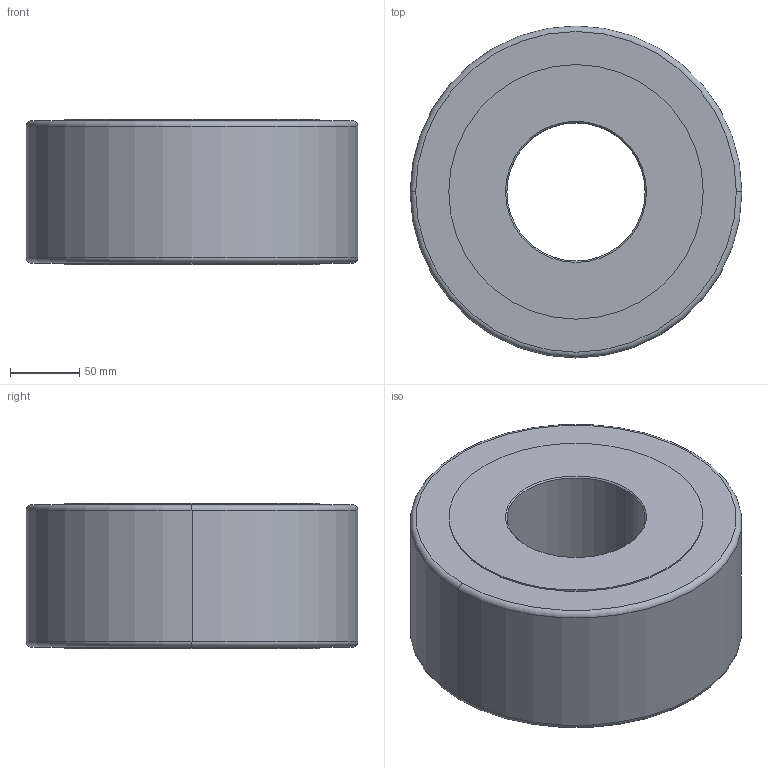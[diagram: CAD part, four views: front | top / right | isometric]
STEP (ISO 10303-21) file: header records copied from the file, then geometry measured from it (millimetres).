
FILE_DESCRIPTION (( 'STEP AP214' ), '1' );
FILE_NAME ('3DRSU100-240.STEP', '2013-12-19T09:43:59', ( 'usuario' ), ( 'Hewlett-Packard Company' ), 'SwSTEP 2.0', 'SolidWorks 2017', '' );
FILE_SCHEMA (( 'AUTOMOTIVE_DESIGN' ));
Length unit declared in the file: millimetre
Products named in the file (1): 3DRSU100-240
Bounding box: 240 x 240 x 105 mm (x, y, z)
Volume: 3882721.1 mm3; surface area: 183604.9 mm2
Topology: 1 solids, 1 shells, 20 faces, 40 edges, 24 vertices
Faces by surface type: cylinder 8, cone 4, torus 4, plane 4
Entity records: 566 total; most frequent: DIRECTION 110, CARTESIAN_POINT 85, ORIENTED_EDGE 80, AXIS2_PLACEMENT_3D 49, EDGE_CURVE 40, CIRCLE 28, EDGE_LOOP 24, VERTEX_POINT 24
